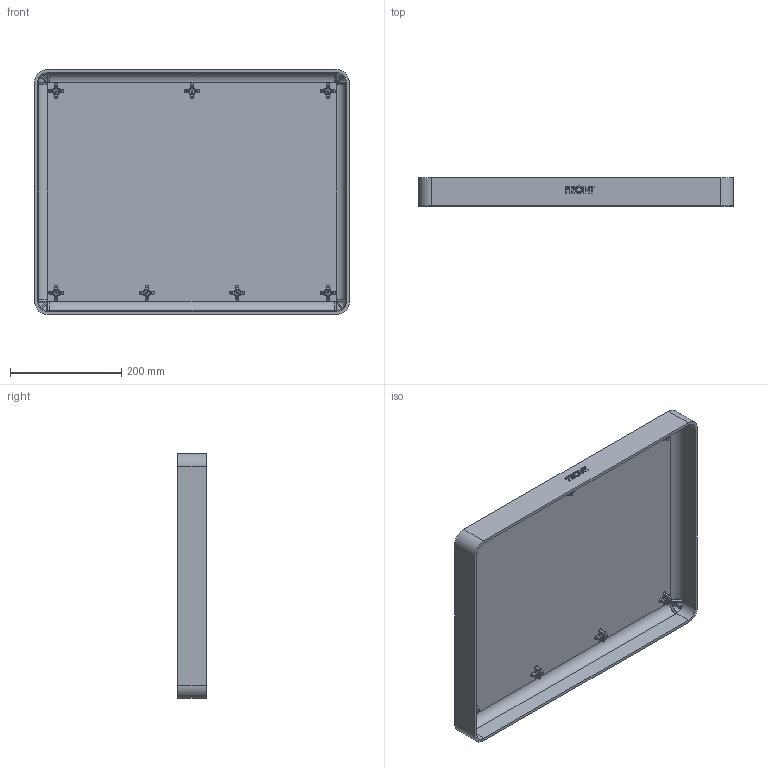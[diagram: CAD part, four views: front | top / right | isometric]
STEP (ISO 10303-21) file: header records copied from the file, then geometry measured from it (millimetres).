
FILE_DESCRIPTION (( 'STEP AP214' ), '1' );
FILE_NAME ('1600 Peli Case top.STEP', '2016-01-12T18:37:52', ( '' ), ( '' ), 'SwSTEP 2.0', 'SolidWorks 2014', '' );
FILE_SCHEMA (( 'AUTOMOTIVE_DESIGN' ));
Length unit declared in the file: inch
Products named in the file (1): 1600 Peli Case top
Bounding box: 566.67 x 50.8 x 440.56 mm (x, y, z)
Volume: 2007902 mm3; surface area: 676648.2 mm2
Topology: 1 solids, 1 shells, 865 faces, 2026 edges, 1125 vertices
Faces by surface type: bspline 297, plane 151, cylinder 146, torus 126, cone 77, sphere 68
Entity records: 32823 total; most frequent: CARTESIAN_POINT 15406, ORIENTED_EDGE 3932, DIRECTION 3297, EDGE_CURVE 1966, AXIS2_PLACEMENT_3D 1420, VERTEX_POINT 1125, EDGE_LOOP 887, ADVANCED_FACE 865
